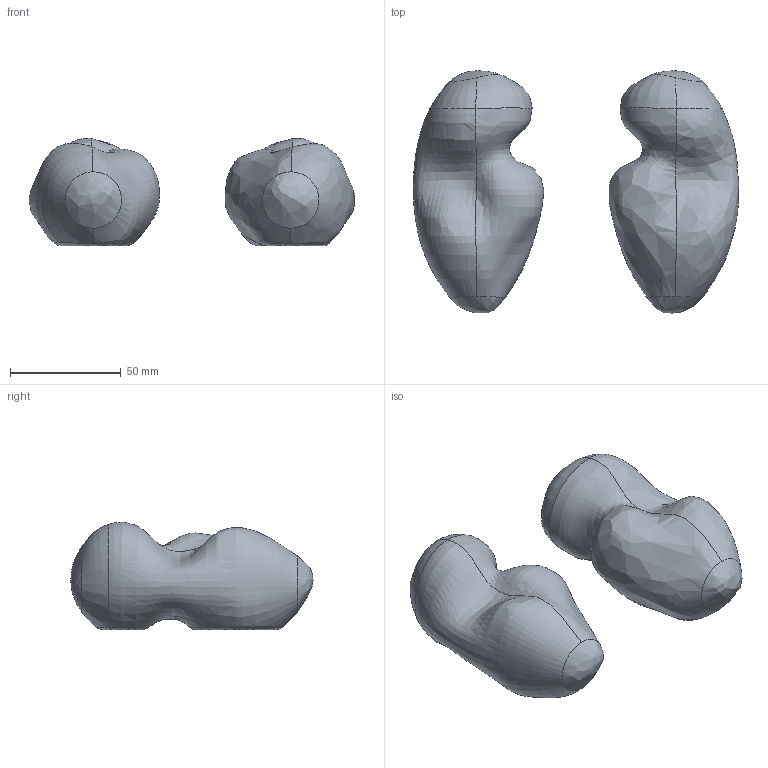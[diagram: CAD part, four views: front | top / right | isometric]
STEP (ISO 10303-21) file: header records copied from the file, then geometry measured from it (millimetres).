
FILE_DESCRIPTION (( 'STEP AP214' ), '1' );
FILE_NAME ('Anna Karlin - Wilder Pull - No Backplates.STEP', '2026-05-08T19:18:05', ( '' ), ( '' ), 'SwSTEP 2.0', 'SolidWorks 2023', '' );
FILE_SCHEMA (( 'AUTOMOTIVE_DESIGN' ));
Length unit declared in the file: inch
Products named in the file (3): Custom Door Knob 2_Knob - Left; Custom Door Knob 2_Knob - Right; Anna Karlin - Wilder Pull - No Backplates
Assembly tree (2 placements, depth 2):
  Anna Karlin - Wilder Pull - No Backplates
    Custom Door Knob 2_Knob - Right
    Custom Door Knob 2_Knob - Left
Bounding box: 146.5 x 109.1 x 48.41 mm (x, y, z)
Volume: 170284.5 mm3; surface area: 54527.2 mm2
Topology: 2 solids, 2 shells, 76 faces, 191 edges, 116 vertices
Faces by surface type: bspline 60, cylinder 8, plane 8
Entity records: 471839 total; most frequent: CARTESIAN_POINT 470474, ORIENTED_EDGE 364, EDGE_CURVE 182, B_SPLINE_CURVE_WITH_KNOTS 159, VERTEX_POINT 114, EDGE_LOOP 84, DIRECTION 82, ADVANCED_FACE 76
